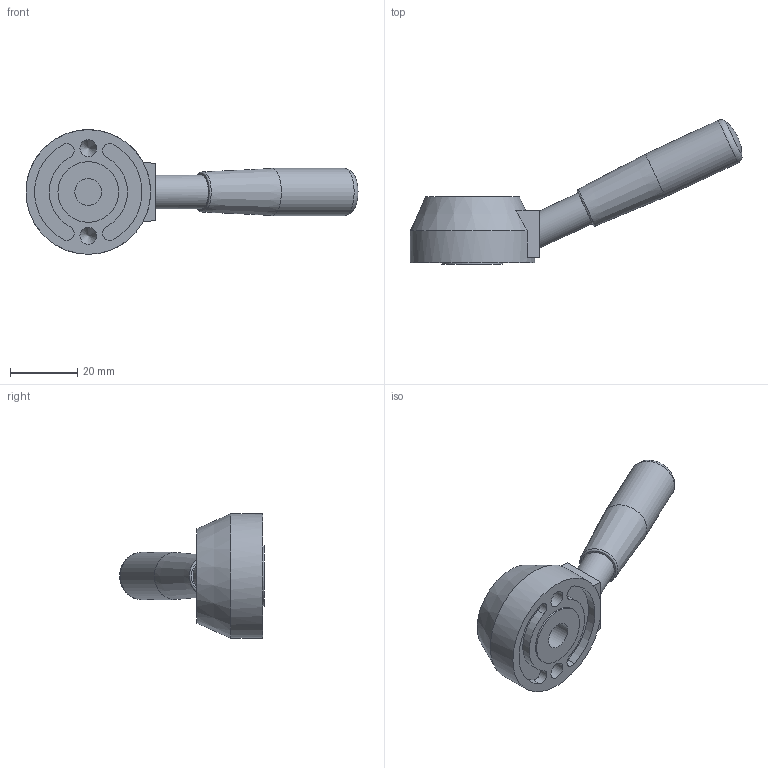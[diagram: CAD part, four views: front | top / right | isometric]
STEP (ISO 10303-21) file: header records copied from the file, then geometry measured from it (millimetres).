
FILE_DESCRIPTION( ( 'STEP AP203' ), '1' );
FILE_NAME( 'C:/Temp/Ganter_Step_05_03_2020/data/2_1/gn_512/gn_512_b/Control lever GN 512-37-B8.stp', '2020-03-05T11:51:35', ( 'License CC BY-ND 4.0' ), ( 'CADENAS' ), ' ', 'PARTsolutions', ' ' );
FILE_SCHEMA( ( 'CONFIG_CONTROL_DESIGN' ) );
Length unit declared in the file: millimetre
Products named in the file (1): _Control lever GN 512-37-B8
Bounding box: 98.59 x 42.95 x 37 mm (x, y, z)
Volume: 25323 mm3; surface area: 8028.6 mm2
Topology: 1 solids, 1 shells, 36 faces, 80 edges, 52 vertices
Faces by surface type: cylinder 16, plane 13, cone 4, torus 2, sphere 1
Full cylindrical faces by diameter (mm): 5 x2, 8 x1, 10 x1, 14 x1, 18 x1, 21 x1, 37 x1
Entity records: 930 total; most frequent: DIRECTION 168, CARTESIAN_POINT 149, ORIENTED_EDGE 116, AXIS2_PLACEMENT_3D 75, EDGE_CURVE 58, EDGE_LOOP 57, VERTEX_POINT 48, FACE_OUTER_BOUND 46
